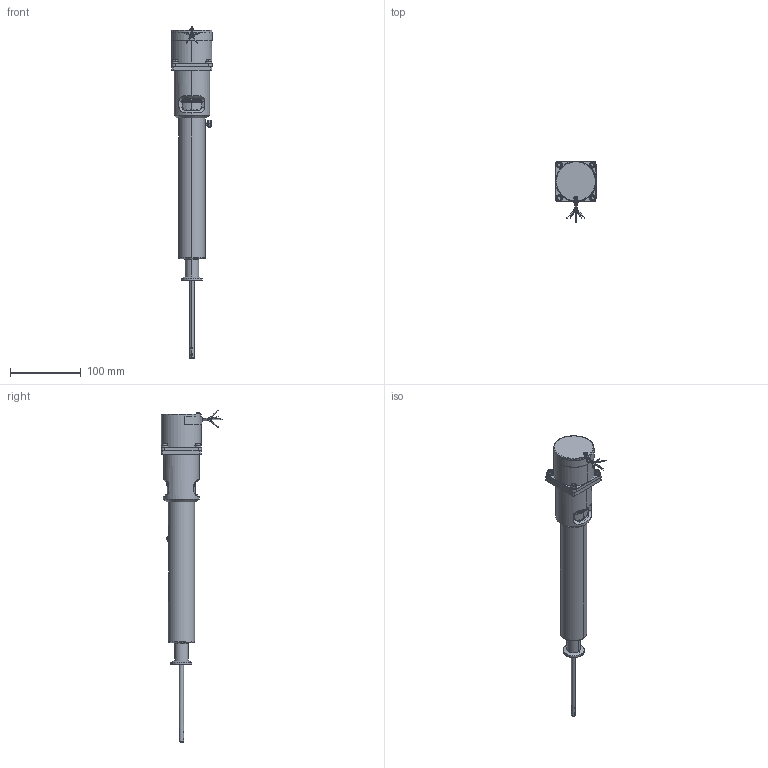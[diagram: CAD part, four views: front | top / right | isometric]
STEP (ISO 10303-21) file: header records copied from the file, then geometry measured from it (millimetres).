
FILE_DESCRIPTION (( 'STEP AP203' ), '1' );
FILE_NAME ('113080.11.stp', '2019-03-07T23:33:33', ( '' ), ( '' ), 'SwSTEP 2.0', 'SolidWorks 2012', '' );
FILE_SCHEMA (( 'CONFIG_CONTROL_DESIGN' ));
Products named in the file (1): 113080.11
Bounding box: 57.4 x 86.93 x 468.47 mm (x, y, z)
Volume: 507226.5 mm3; surface area: 62215.6 mm2
Topology: 1 solids, 21 shells, 1322 faces, 3560 edges, 2334 vertices
Faces by surface type: plane 593, cylinder 432, bspline 215, cone 82
Entity records: 143596 total; most frequent: CARTESIAN_POINT 112671, ORIENTED_EDGE 7100, DIRECTION 5504, EDGE_CURVE 3550, VERTEX_POINT 2326, AXIS2_PLACEMENT_3D 1958, LINE 1588, VECTOR 1588
